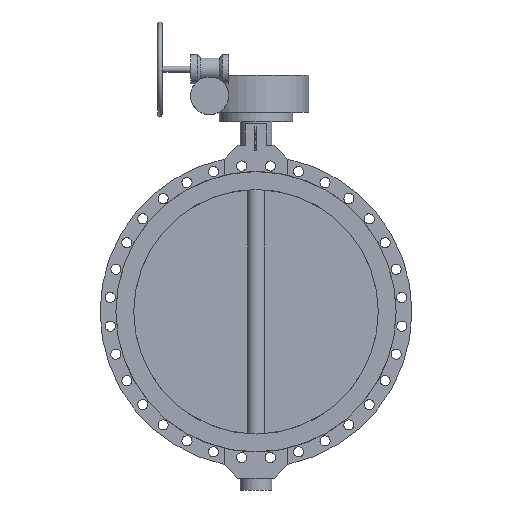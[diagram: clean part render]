
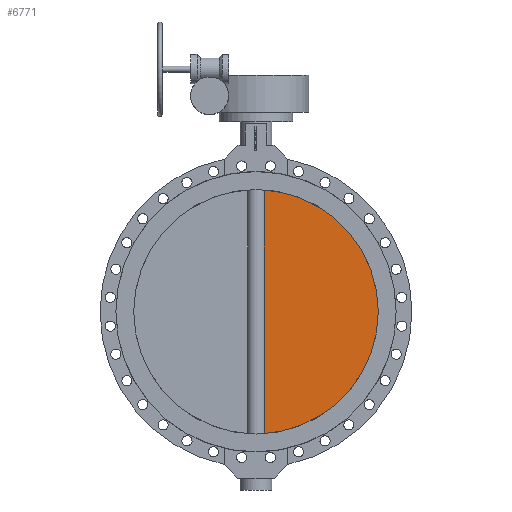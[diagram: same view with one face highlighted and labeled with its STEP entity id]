
A CAD part, left-side view. The second image highlights one B-rep face of the part: STEP entity #6771.
In plain terms, the highlighted planar face has unit normal (-1, 0, 0).
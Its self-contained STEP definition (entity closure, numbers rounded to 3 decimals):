
#6771=ADVANCED_FACE('',(#12475),#12477,.F.);
#12475=FACE_BOUND('',#12476,.T.);
#12476=EDGE_LOOP('',(#16554,#16555));
#12477=PLANE('',#12478);
#12478=AXIS2_PLACEMENT_3D('',#12479,#12480,#12481);
#12479=CARTESIAN_POINT('',(-20.,0.,0.));
#12480=DIRECTION('',(1.,0.,0.));
#12481=DIRECTION('',(0.,1.,0.));
#16554=ORIENTED_EDGE('',*,*,#18786,.T.);
#16555=ORIENTED_EDGE('',*,*,#18480,.T.);
#18480=EDGE_CURVE('',#21821,#21819,#21822,.F.);
#18786=EDGE_CURVE('',#21819,#21821,#22283,.T.);
#21819=VERTEX_POINT('',#32292);
#21821=VERTEX_POINT('',#32370);
#21822=CIRCLE('',#32371,580.3);
#22283=LINE('',#33734,#33735);
#32292=CARTESIAN_POINT('',(-20.,-40.311,578.898));
#32370=CARTESIAN_POINT('',(-20.,-40.311,-578.898));
#32371=AXIS2_PLACEMENT_3D('',#32372,#32373,#32374);
#32372=CARTESIAN_POINT('',(-20.,0.,0.));
#32373=DIRECTION('',(1.,0.,0.));
#32374=DIRECTION('',(0.,-0.069,0.998));
#33734=CARTESIAN_POINT('',(-20.,-40.311,578.898));
#33735=VECTOR('',#33736,1.);
#33736=DIRECTION('',(0.,0.,-1.));
